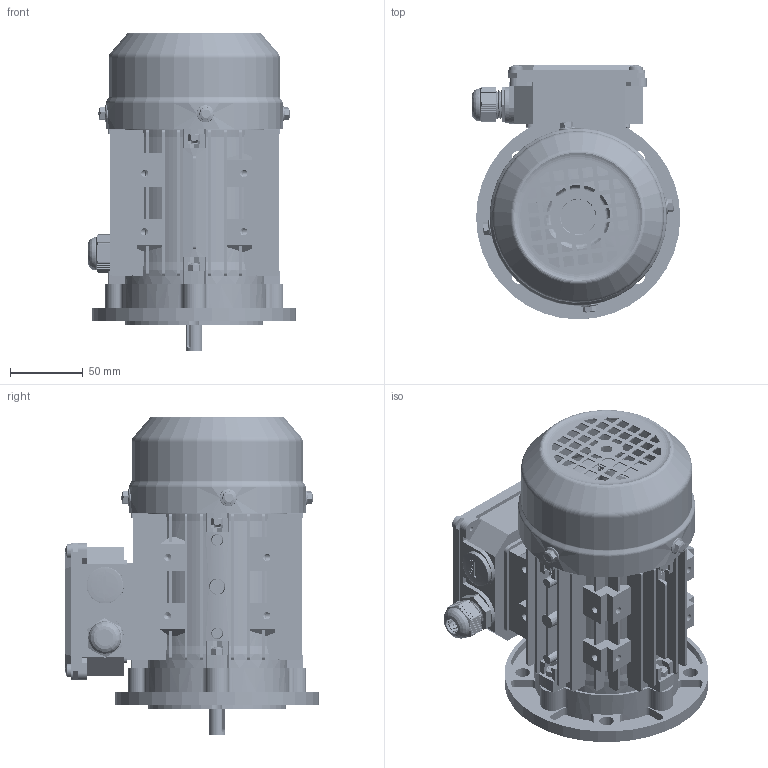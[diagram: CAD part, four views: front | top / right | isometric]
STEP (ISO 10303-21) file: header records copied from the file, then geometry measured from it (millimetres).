
FILE_DESCRIPTION (( 'STEP AP203' ), '1' );
FILE_NAME ('MS-63 B5 3Dͼ.STEP', '2024-08-05T08:49:27', ( 'User' ), ( 'China' ), 'SwSTEP 2.0', 'SolidWorks 2018', '' );
FILE_SCHEMA (( 'CONFIG_CONTROL_DESIGN' ));
Length unit declared in the file: millimetre
Products named in the file (18): MS63 B5ヶ裔; 蹟簸M20X1.5; MS63 儂褲; MS-63 B5  3Dͼ; 黑芛20X1.5; MS63 B3綴裔; hexagon socket head cap screws gb_GB_FASTENER_SCREWS_HSHCS M5X25-S; deep groove ball bearings gb_Rolling bearings 6201 GB 276-94; hex nuts, style 1-grades ab gb_GB_FASTENER_NUT_SNAB1 M5-S; MS63 蛌粣; spring lock washers--normal type gb_GB_FASTENER_WASHER_SW 5; 蚐猾24X12X5; MS63 邧脯瑞欶; MS63-71諉盄碟菁釱; hex flange bolts-heavy grade b gb_GB_FASTENER_BOLT_HFBB M5X10-S; MS63-71諉盄碟裔; cross recessed pan head screws gb_GB_CROSS_SCREWS_TYPE1 M5X6-6  H type-S; 蹟杶郋M20X1.5
Assembly tree (41 placements, depth 2):
  MS-63 B5  3Dͼ
    MS63 儂褲
    MS63 B3綴裔
    deep groove ball bearings gb_Rolling bearings 6201 GB 276-94  x2
    MS63 蛌粣
    蚐猾24X12X5  x2
    MS63-71諉盄碟菁釱
    MS63-71諉盄碟裔
    蹟杶郋M20X1.5
    蹟簸M20X1.5
    黑芛20X1.5
    hexagon socket head cap screws gb_GB_FASTENER_SCREWS_HSHCS M5X25-S  x8
    hex nuts, style 1-grades ab gb_GB_FASTENER_NUT_SNAB1 M5-S  x7
    spring lock washers--normal type gb_GB_FASTENER_WASHER_SW 5  x4
    MS63 邧脯瑞欶
    hex flange bolts-heavy grade b gb_GB_FASTENER_BOLT_HFBB M5X10-S  x4
    cross recessed pan head screws gb_GB_CROSS_SCREWS_TYPE1 M5X6-6  H type-S  x4
    MS63 B5ヶ裔
Bounding box: 143.02 x 174.5 x 218.64 mm (x, y, z)
Volume: 532929.7 mm3; surface area: 398792.9 mm2
Topology: 44 solids, 44 shells, 6834 faces, 16511 edges, 9731 vertices
Faces by surface type: cone 2537, plane 1998, cylinder 1861, torus 206, bspline 176, sphere 56
Entity records: 133166 total; most frequent: CARTESIAN_POINT 44990, ORIENTED_EDGE 18790, DIRECTION 16664, EDGE_CURVE 9395, VERTEX_POINT 5996, AXIS2_PLACEMENT_3D 5754, LINE 5156, VECTOR 5156
